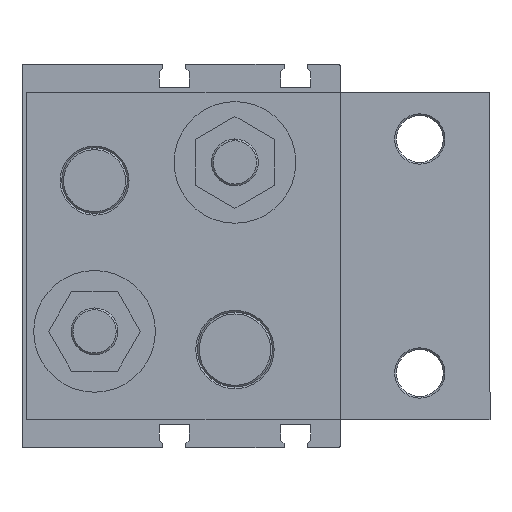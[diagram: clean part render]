
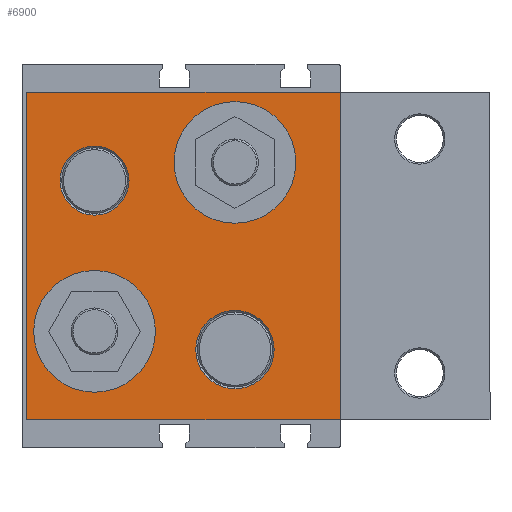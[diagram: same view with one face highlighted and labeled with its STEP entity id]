
A CAD part, left-side view. The second image highlights one B-rep face of the part: STEP entity #6900.
In plain terms, the highlighted planar face has unit normal (-1, 0, 0) as drawn and (1, 0, 0) by its records, which use the part's own axes.
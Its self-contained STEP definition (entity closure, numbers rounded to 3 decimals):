
#109 = ORIENTED_EDGE ( 'NONE', *, *, #4503, .T. ) ;
#125 = DIRECTION ( 'NONE',  ( -1., 0., 0. ) ) ;
#140 = DIRECTION ( 'NONE',  ( 0., 1., 0. ) ) ;
#194 = EDGE_LOOP ( 'NONE', ( #3883, #5355 ) ) ;
#206 = CARTESIAN_POINT ( 'NONE',  ( 24., -44.5, -20. ) ) ;
#240 = DIRECTION ( 'NONE',  ( 0., 1., 0. ) ) ;
#340 = ORIENTED_EDGE ( 'NONE', *, *, #6759, .F. ) ;
#351 = EDGE_CURVE ( 'NONE', #3964, #2676, #5489, .T. ) ;
#411 = ORIENTED_EDGE ( 'NONE', *, *, #1218, .F. ) ;
#443 = DIRECTION ( 'NONE',  ( 1., 0., 0. ) ) ;
#514 = EDGE_LOOP ( 'NONE', ( #1025, #1411 ) ) ;
#724 = AXIS2_PLACEMENT_3D ( 'NONE', #206, #4274, #811 ) ;
#786 = EDGE_CURVE ( 'NONE', #4313, #6065, #6984, .T. ) ;
#811 = DIRECTION ( 'NONE',  ( 0., 1., 0. ) ) ;
#991 = FACE_BOUND ( 'NONE', #194, .T. ) ;
#1025 = ORIENTED_EDGE ( 'NONE', *, *, #786, .F. ) ;
#1042 = AXIS2_PLACEMENT_3D ( 'NONE', #3930, #443, #4496 ) ;
#1077 = DIRECTION ( 'NONE',  ( 0., -1., 0. ) ) ;
#1084 = VECTOR ( 'NONE', #2298, 1000. ) ;
#1218 = EDGE_CURVE ( 'NONE', #2676, #3964, #2154, .T. ) ;
#1253 = EDGE_CURVE ( 'NONE', #4297, #2736, #6531, .T. ) ;
#1266 = VERTEX_POINT ( 'NONE', #4846 ) ;
#1318 = AXIS2_PLACEMENT_3D ( 'NONE', #2153, #6161, #2724 ) ;
#1346 = CARTESIAN_POINT ( 'NONE',  ( 24., -44.5, 20. ) ) ;
#1387 = CARTESIAN_POINT ( 'NONE',  ( 24., -31.5, -20. ) ) ;
#1411 = ORIENTED_EDGE ( 'NONE', *, *, #4101, .F. ) ;
#1519 = ORIENTED_EDGE ( 'NONE', *, *, #1904, .T. ) ;
#1578 = DIRECTION ( 'NONE',  ( 0., 0., 1. ) ) ;
#1620 = DIRECTION ( 'NONE',  ( 1., 0., 0. ) ) ;
#1733 = CARTESIAN_POINT ( 'NONE',  ( 24., -14.5, -16.1 ) ) ;
#1904 = EDGE_CURVE ( 'NONE', #1266, #2672, #2765, .T. ) ;
#1941 = DIRECTION ( 'NONE',  ( 0., 0., -1. ) ) ;
#2023 = DIRECTION ( 'NONE',  ( 0., 0., -1. ) ) ;
#2088 = VECTOR ( 'NONE', #1077, 1000. ) ;
#2153 = CARTESIAN_POINT ( 'NONE',  ( 24., -44.5, 20. ) ) ;
#2154 = CIRCLE ( 'NONE', #6679, 8.375 ) ;
#2256 = AXIS2_PLACEMENT_3D ( 'NONE', #5336, #125, #5908 ) ;
#2298 = DIRECTION ( 'NONE',  ( 0., -1., 0. ) ) ;
#2299 = DIRECTION ( 'NONE',  ( 0., 1., 0. ) ) ;
#2306 = EDGE_LOOP ( 'NONE', ( #7377, #411 ) ) ;
#2312 = VECTOR ( 'NONE', #1578, 1000. ) ;
#2324 = EDGE_CURVE ( 'NONE', #5645, #2753, #5620, .T. ) ;
#2672 = VERTEX_POINT ( 'NONE', #4175 ) ;
#2676 = VERTEX_POINT ( 'NONE', #3628 ) ;
#2724 = DIRECTION ( 'NONE',  ( 0., 0., -1. ) ) ;
#2736 = VERTEX_POINT ( 'NONE', #1387 ) ;
#2753 = VERTEX_POINT ( 'NONE', #4827 ) ;
#2765 = LINE ( 'NONE', #6033, #3945 ) ;
#3256 = CIRCLE ( 'NONE', #5678, 7.375 ) ;
#3627 = DIRECTION ( 'NONE',  ( 1., 0., 0. ) ) ;
#3628 = CARTESIAN_POINT ( 'NONE',  ( 24., -44.5, 28.375 ) ) ;
#3629 = ORIENTED_EDGE ( 'NONE', *, *, #2324, .F. ) ;
#3720 = CARTESIAN_POINT ( 'NONE',  ( 24., -44.5, 11.625 ) ) ;
#3729 = DIRECTION ( 'NONE',  ( 1., 0., 0. ) ) ;
#3797 = EDGE_LOOP ( 'NONE', ( #5176, #109, #1519, #340 ) ) ;
#3861 = LINE ( 'NONE', #4421, #2312 ) ;
#3883 = ORIENTED_EDGE ( 'NONE', *, *, #4858, .F. ) ;
#3888 = FACE_BOUND ( 'NONE', #514, .T. ) ;
#3930 = CARTESIAN_POINT ( 'NONE',  ( 24., -14.5, -16.1 ) ) ;
#3945 = VECTOR ( 'NONE', #2023, 1000. ) ;
#3964 = VERTEX_POINT ( 'NONE', #3720 ) ;
#4050 = FACE_BOUND ( 'NONE', #6417, .T. ) ;
#4101 = EDGE_CURVE ( 'NONE', #6065, #4313, #3256, .T. ) ;
#4175 = CARTESIAN_POINT ( 'NONE',  ( 24., -67., -35. ) ) ;
#4176 = CARTESIAN_POINT ( 'NONE',  ( 24., -7.125, -16.1 ) ) ;
#4274 = DIRECTION ( 'NONE',  ( 1., 0., 0. ) ) ;
#4297 = VERTEX_POINT ( 'NONE', #7017 ) ;
#4313 = VERTEX_POINT ( 'NONE', #4176 ) ;
#4421 = CARTESIAN_POINT ( 'NONE',  ( 24., 0., 35. ) ) ;
#4496 = DIRECTION ( 'NONE',  ( 0., 1., 0. ) ) ;
#4503 = EDGE_CURVE ( 'NONE', #6767, #1266, #5663, .T. ) ;
#4540 = ORIENTED_EDGE ( 'NONE', *, *, #5666, .F. ) ;
#4755 = PLANE ( 'NONE',  #2256 ) ;
#4827 = CARTESIAN_POINT ( 'NONE',  ( 24., -27.5, 16.1 ) ) ;
#4839 = CARTESIAN_POINT ( 'NONE',  ( 24., -21.875, -16.1 ) ) ;
#4846 = CARTESIAN_POINT ( 'NONE',  ( 24., -67., 35. ) ) ;
#4858 = EDGE_CURVE ( 'NONE', #2736, #4297, #6554, .T. ) ;
#5039 = AXIS2_PLACEMENT_3D ( 'NONE', #7143, #3729, #240 ) ;
#5058 = CARTESIAN_POINT ( 'NONE',  ( 24., -14.5, 16.1 ) ) ;
#5136 = CARTESIAN_POINT ( 'NONE',  ( 24., 0., -35. ) ) ;
#5176 = ORIENTED_EDGE ( 'NONE', *, *, #7460, .T. ) ;
#5294 = LINE ( 'NONE', #6227, #2088 ) ;
#5336 = CARTESIAN_POINT ( 'NONE',  ( 24., -67., 35. ) ) ;
#5355 = ORIENTED_EDGE ( 'NONE', *, *, #1253, .F. ) ;
#5367 = DIRECTION ( 'NONE',  ( 1., 0., 0. ) ) ;
#5489 = CIRCLE ( 'NONE', #1318, 8.375 ) ;
#5573 = FACE_OUTER_BOUND ( 'NONE', #3797, .T. ) ;
#5619 = DIRECTION ( 'NONE',  ( 0., 1., 0. ) ) ;
#5620 = CIRCLE ( 'NONE', #5039, 13. ) ;
#5645 = VERTEX_POINT ( 'NONE', #6181 ) ;
#5663 = LINE ( 'NONE', #7438, #1084 ) ;
#5666 = EDGE_CURVE ( 'NONE', #2753, #5645, #6729, .T. ) ;
#5672 = CARTESIAN_POINT ( 'NONE',  ( 24., 0., 35. ) ) ;
#5678 = AXIS2_PLACEMENT_3D ( 'NONE', #1733, #5725, #2299 ) ;
#5725 = DIRECTION ( 'NONE',  ( 1., 0., 0. ) ) ;
#5908 = DIRECTION ( 'NONE',  ( 0., 0., 1. ) ) ;
#6033 = CARTESIAN_POINT ( 'NONE',  ( 24., -67., 35. ) ) ;
#6065 = VERTEX_POINT ( 'NONE', #4839 ) ;
#6161 = DIRECTION ( 'NONE',  ( 1., 0., 0. ) ) ;
#6181 = CARTESIAN_POINT ( 'NONE',  ( 24., -1.5, 16.1 ) ) ;
#6227 = CARTESIAN_POINT ( 'NONE',  ( 24., 0., -35. ) ) ;
#6405 = AXIS2_PLACEMENT_3D ( 'NONE', #5058, #1620, #5619 ) ;
#6417 = EDGE_LOOP ( 'NONE', ( #3629, #4540 ) ) ;
#6531 = CIRCLE ( 'NONE', #724, 13. ) ;
#6554 = CIRCLE ( 'NONE', #6845, 13. ) ;
#6679 = AXIS2_PLACEMENT_3D ( 'NONE', #1346, #5367, #1941 ) ;
#6729 = CIRCLE ( 'NONE', #6405, 13. ) ;
#6759 = EDGE_CURVE ( 'NONE', #6997, #2672, #5294, .T. ) ;
#6767 = VERTEX_POINT ( 'NONE', #5672 ) ;
#6845 = AXIS2_PLACEMENT_3D ( 'NONE', #7039, #3627, #140 ) ;
#6900 = ADVANCED_FACE ( 'NONE', ( #5573, #4050, #991, #6903, #3888 ), #4755, .F. ) ;
#6903 = FACE_BOUND ( 'NONE', #2306, .T. ) ;
#6984 = CIRCLE ( 'NONE', #1042, 7.375 ) ;
#6997 = VERTEX_POINT ( 'NONE', #5136 ) ;
#7017 = CARTESIAN_POINT ( 'NONE',  ( 24., -57.5, -20. ) ) ;
#7039 = CARTESIAN_POINT ( 'NONE',  ( 24., -44.5, -20. ) ) ;
#7143 = CARTESIAN_POINT ( 'NONE',  ( 24., -14.5, 16.1 ) ) ;
#7377 = ORIENTED_EDGE ( 'NONE', *, *, #351, .F. ) ;
#7438 = CARTESIAN_POINT ( 'NONE',  ( 24., 0., 35. ) ) ;
#7460 = EDGE_CURVE ( 'NONE', #6997, #6767, #3861, .T. ) ;
